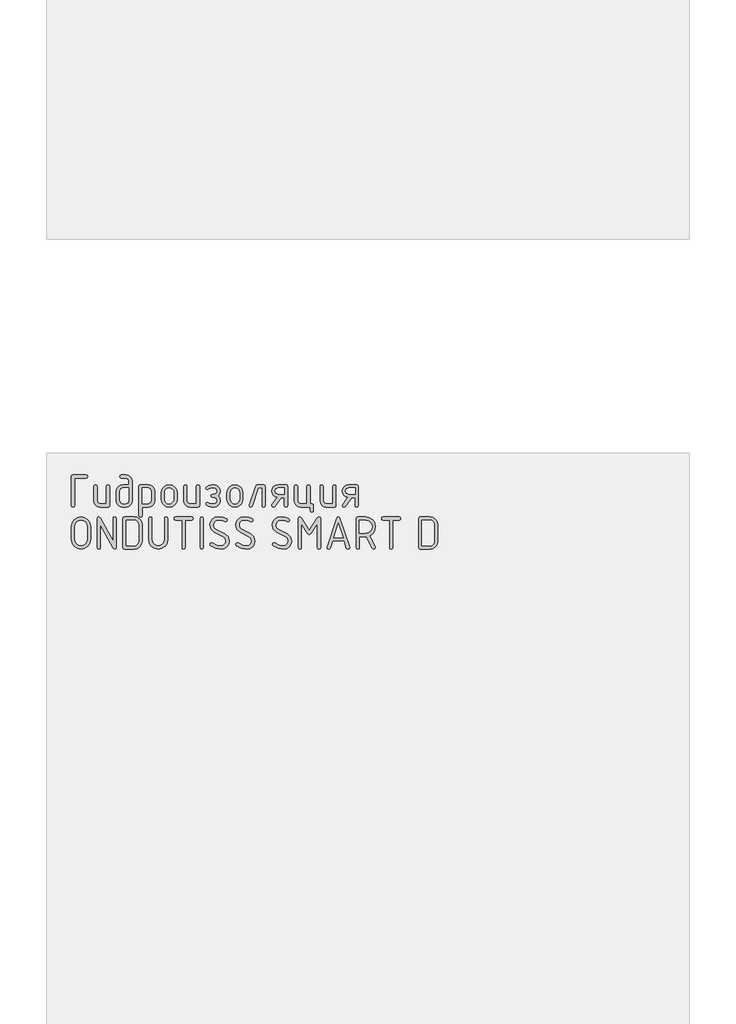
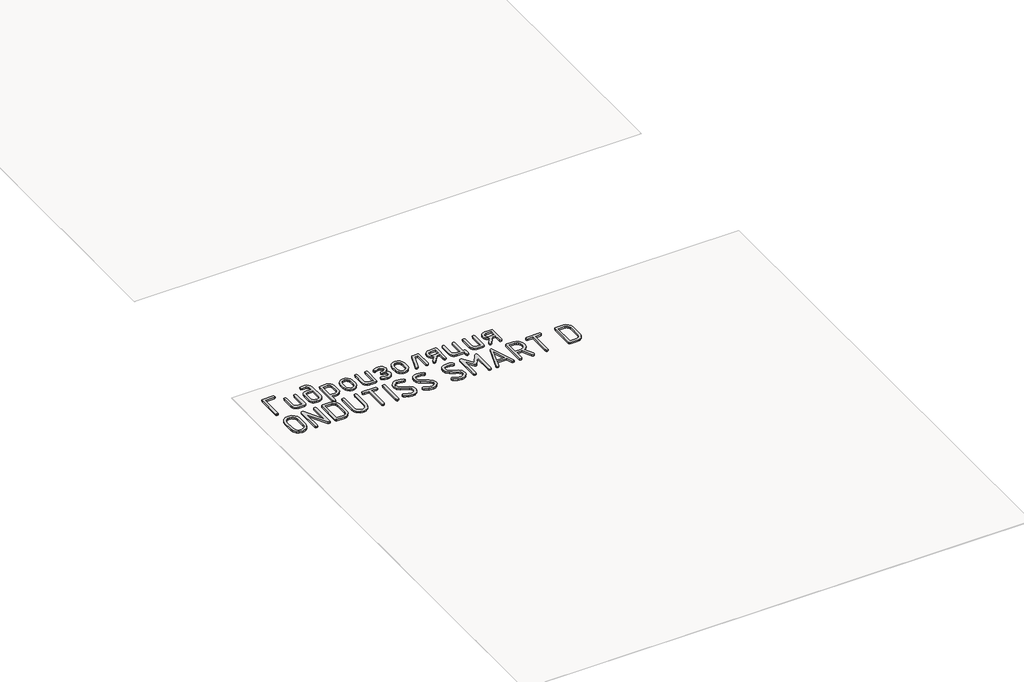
# One storey, part 17 of 42: 1 proxy.
"""IFC4 building model written with IfcOpenShell, lengths in millimetres."""

from ifc_helpers import new_model, si_unit, origin, origin_with_axes, place, context, project, spatial, polyline, outline, extrude, element, save

model = new_model("IFC4")

# Units and contexts
model_context = context("Model", 3, world=origin())
ifc_project = project(units=[si_unit("LENGTHUNIT", "METRE", prefix="MILLI")], contexts=[model_context])

# Site, building, storey
site = spatial("IfcSite", under=ifc_project)
building = spatial("IfcBuilding", under=site)
storey = spatial("IfcBuildingStorey", under=building, Name="Этаж 01", Elevation=0.0)

# Proxy
placement = place(None, origin())
element("IfcBuildingElementProxy", 1, Name="150 мм GOST Common", ObjectType="150 мм GOST Common", at=placement, inside=storey, context=model_context, shape_type="SweptSolid", body=[
    extrude(outline(polyline([(-4405.184039, -34691.2553022), (-4405.184039, -34819.2602353), (-4407.1017159, -34824.8934112), (-4412.8547466, -34826.7711365), (-4418.6077773, -34824.8834233), (-4420.5254542, -34819.2202837), (-4420.5254542, -34683.4647398), (-4418.6077773, -34677.8016002), (-4412.8547466, -34675.913887), (-4352.6876338, -34675.913887), (-4347.0544579, -34677.8315639), (-4345.1767326, -34683.5845946), (-4347.0544579, -34689.3376253), (-4352.6876338, -34691.2553022), (-4405.184039, -34691.2553022)])), origin_with_axes(), (0.0, 0.0, 1.0), 10.0),
    extrude(outline(polyline([(-4241.5422768, -34729.4090822), (-4241.5422768, -34819.3001869), (-4243.4000263, -34824.9033991), (-4248.9732748, -34826.7711365), (-4286.0483616, -34826.7711365), (-4297.5444351, -34824.6037621), (-4307.1028559, -34818.1016388), (-4313.5450517, -34808.443339), (-4315.6924503, -34796.8074349), (-4315.6924503, -34729.4090822), (-4313.7747734, -34723.80587), (-4308.0217427, -34721.9381326), (-4302.268712, -34723.80587), (-4300.3510351, -34729.4090822), (-4300.3510351, -34796.5277737), (-4296.0762137, -34807.0150692), (-4285.8486036, -34811.4297213), (-4256.883692, -34811.4297213), (-4256.883692, -34729.4090822), (-4254.9660151, -34723.80587), (-4249.2129844, -34721.9381326), (-4243.4599537, -34723.80587), (-4241.5422768, -34729.4090822)])), origin_with_axes(), (0.0, 0.0, 1.0), 10.0),
    extrude(outline(polyline([(-4136.709273, -34706.0773466), (-4136.709273, -34796.6076769), (-4138.8716535, -34808.2935205), (-4145.3587948, -34818.0217356), (-4154.9321975, -34824.5837863), (-4166.3533617, -34826.7711365), (-4181.2153577, -34826.7711365), (-4192.7114312, -34824.5887802), (-4202.269852, -34818.0417114), (-4208.7120478, -34808.3684298), (-4210.8594465, -34796.8074349), (-4210.8594465, -34751.9018342), (-4208.7170418, -34740.2659301), (-4202.2898278, -34730.6076303), (-4192.7963284, -34724.105507), (-4181.4550673, -34721.9381326), (-4152.0506882, -34721.9381326), (-4152.0506882, -34706.5967174), (-4156.2256306, -34695.6699543), (-4166.5531198, -34691.2553022), (-4188.2867913, -34691.2553022), (-4193.7102213, -34689.3376253), (-4195.5180313, -34683.5845946), (-4193.6802576, -34677.8315639), (-4188.1669365, -34675.913887), (-4166.1136521, -34675.913887), (-4154.7224516, -34678.1162191), (-4145.23894, -34684.7232153), (-4138.8416898, -34694.4664122), (-4136.709273, -34706.0773466)]), holes=[polyline([(-4152.0506882, -34796.6076769), (-4152.0506882, -34737.2795478), (-4181.0155997, -34737.2795478), (-4191.2831614, -34741.6142966), (-4195.5180313, -34752.1015922), (-4195.5180313, -34796.6076769), (-4191.2432098, -34807.0550209), (-4181.0155997, -34811.4297213), (-4166.5531198, -34811.4297213), (-4156.285558, -34807.0949725), (-4152.0506882, -34796.6076769)])]), origin_with_axes(), (0.0, 0.0, 1.0), 10.0),
    extrude(outline(polyline([(-4106.0264426, -34729.4889854), (-4104.1686931, -34723.8258458), (-4098.5954446, -34721.9381326), (-4061.5203579, -34721.9381326), (-4050.0242844, -34724.105507), (-4040.4658636, -34730.6076303), (-4034.0236678, -34740.2659301), (-4031.8762691, -34751.9018342), (-4031.8762691, -34796.8074349), (-4034.0086859, -34808.3684298), (-4040.4059362, -34818.0417114), (-4049.8894477, -34824.5887802), (-4061.2806483, -34826.7711365), (-4090.6850274, -34826.7711365), (-4090.6850274, -34865.1246745), (-4092.6027043, -34870.8777052), (-4098.355735, -34872.7953821), (-4104.1087657, -34870.9076689), (-4106.0264426, -34865.2445293), (-4106.0264426, -34729.4889854)]), holes=[polyline([(-4090.6850274, -34737.2795478), (-4090.6850274, -34811.4297213), (-4061.7201159, -34811.4297213), (-4051.4525542, -34807.0949725), (-4047.2176843, -34796.6076769), (-4047.2176843, -34752.1015922), (-4051.3926268, -34741.5543692), (-4061.7201159, -34737.2795478), (-4090.6850274, -34737.2795478)])]), origin_with_axes(), (0.0, 0.0, 1.0), 10.0),
    extrude(outline(polyline([(-4001.1934388, -34789.3364853), (-4001.1934388, -34759.3727838), (-3998.4817238, -34744.9802191), (-3990.3465788, -34732.8848716), (-3978.3660921, -34724.6748174), (-3964.118352, -34721.9381326), (-3949.7207934, -34724.6448537), (-3937.7702705, -34732.7650168), (-3929.7250166, -34744.8304006), (-3927.0432653, -34759.3727838), (-3927.0432653, -34789.3364853), (-3929.7549803, -34803.72905), (-3937.8901253, -34815.8243975), (-3949.8706119, -34824.0344517), (-3964.118352, -34826.7711365), (-3978.3660921, -34824.0344517), (-3990.3465788, -34815.8243975), (-3998.4817238, -34803.72905), (-4001.1934388, -34789.3364853)]), holes=[polyline([(-3942.3846805, -34788.8970177), (-3942.3846805, -34758.8933645), (-3943.9777506, -34750.2638185), (-3948.756961, -34742.9926269), (-3955.783449, -34738.0486162), (-3964.118352, -34736.4006126), (-3972.453255, -34738.0486162), (-3979.479743, -34742.9926269), (-3984.2589534, -34750.2638185), (-3985.8520236, -34758.8933645), (-3985.8520236, -34788.8970177), (-3984.2739353, -34797.606467), (-3979.5396704, -34804.8776585), (-3972.5281643, -34809.7917056), (-3964.118352, -34811.4297213), (-3955.783449, -34809.7817177), (-3948.756961, -34804.8377069), (-3943.9777506, -34797.5565275), (-3942.3846805, -34788.8970177)])]), origin_with_axes(), (0.0, 0.0, 1.0), 10.0),
    extrude(outline(polyline([(-3822.2102614, -34729.4090822), (-3822.2102614, -34819.3001869), (-3824.0680109, -34824.9033991), (-3829.6412594, -34826.7711365), (-3866.7163462, -34826.7711365), (-3878.2124197, -34824.6037621), (-3887.7708405, -34818.1016388), (-3894.2130363, -34808.443339), (-3896.3604349, -34796.8074349), (-3896.3604349, -34729.4090822), (-3894.442758, -34723.80587), (-3888.6897273, -34721.9381326), (-3882.9366966, -34723.80587), (-3881.0190197, -34729.4090822), (-3881.0190197, -34796.5277737), (-3876.7441983, -34807.0150692), (-3866.5165882, -34811.4297213), (-3837.5516766, -34811.4297213), (-3837.5516766, -34729.4090822), (-3835.6339997, -34723.80587), (-3829.880969, -34721.9381326), (-3824.1279383, -34723.80587), (-3822.2102614, -34729.4090822)])), origin_with_axes(), (0.0, 0.0, 1.0), 10.0),
    extrude(outline(polyline([(-3740.3893804, -34796.0483545), (-3744.3845406, -34784.7020995), (-3753.2537963, -34780.7468909), (-3762.922084, -34780.7468909), (-3768.235647, -34778.5495528), (-3770.3930336, -34773.1161349), (-3768.1757196, -34767.6627412), (-3760.7646975, -34765.4054757), (-3758.4874561, -34765.4054757), (-3756.09036, -34765.4054757), (-3744.4244922, -34761.3503881), (-3740.3893804, -34751.3425118), (-3744.7241292, -34741.3346354), (-3755.4111828, -34737.2795478), (-3762.922084, -34737.2795478), (-3778.3034508, -34741.0949258), (-3787.212658, -34744.9103038), (-3791.2078182, -34742.1736191), (-3792.9257371, -34736.9199834), (-3789.8494638, -34731.1769406), (-3780.6206437, -34726.013196), (-3762.922084, -34721.9381326), (-3755.4111828, -34721.9381326), (-3743.7253392, -34724.0555675), (-3733.9172209, -34730.4078723), (-3727.2652791, -34739.8264625), (-3725.0479652, -34751.1427537), (-3727.6947588, -34764.4366493), (-3735.6351397, -34773.0761833), (-3727.6947588, -34782.2650518), (-3725.0479652, -34796.0883061), (-3727.2652791, -34807.9888895), (-3733.9172209, -34817.881905), (-3743.7253392, -34824.5488286), (-3755.4111828, -34826.7711365), (-3762.922084, -34826.7711365), (-3780.7404985, -34822.8159279), (-3789.8794275, -34817.7420744), (-3792.9257371, -34811.7892857), (-3791.2078182, -34806.5156742), (-3787.0928032, -34803.7989653), (-3777.9638621, -34807.6143433), (-3762.922084, -34811.4297213), (-3755.4111828, -34811.4297213), (-3744.7640808, -34806.935166), (-3740.3893804, -34796.0483545)])), origin_with_axes(), (0.0, 0.0, 1.0), 10.0),
    extrude(outline(polyline([(-3694.3651348, -34789.3364853), (-3694.3651348, -34759.3727838), (-3691.6534198, -34744.9802191), (-3683.5182748, -34732.8848716), (-3671.5377882, -34724.6748174), (-3657.2900481, -34721.9381326), (-3642.8924895, -34724.6448537), (-3630.9419665, -34732.7650168), (-3622.8967126, -34744.8304006), (-3620.2149613, -34759.3727838), (-3620.2149613, -34789.3364853), (-3622.9266763, -34803.72905), (-3631.0618213, -34815.8243975), (-3643.042308, -34824.0344517), (-3657.2900481, -34826.7711365), (-3671.5377882, -34824.0344517), (-3683.5182748, -34815.8243975), (-3691.6534198, -34803.72905), (-3694.3651348, -34789.3364853)]), holes=[polyline([(-3635.5563765, -34788.8970177), (-3635.5563765, -34758.8933645), (-3637.1494467, -34750.2638185), (-3641.9286571, -34742.9926269), (-3648.9551451, -34738.0486162), (-3657.2900481, -34736.4006126), (-3665.6249511, -34738.0486162), (-3672.6514391, -34742.9926269), (-3677.4306495, -34750.2638185), (-3679.0237196, -34758.8933645), (-3679.0237196, -34788.8970177), (-3677.4456313, -34797.606467), (-3672.7113665, -34804.8776585), (-3665.6998603, -34809.7917056), (-3657.2900481, -34811.4297213), (-3648.9551451, -34809.7817177), (-3641.9286571, -34804.8377069), (-3637.1494467, -34797.5565275), (-3635.5563765, -34788.8970177)])]), origin_with_axes(), (0.0, 0.0, 1.0), 10.0),
    extrude(outline(polyline([(-3553.2161247, -34721.9381326), (-3523.0526651, -34721.9381326), (-3517.2996344, -34723.80587), (-3515.3819575, -34729.4090822), (-3515.3819575, -34819.3001869), (-3517.2996344, -34824.9033991), (-3523.0526651, -34826.7711365), (-3528.8056958, -34824.9033991), (-3530.7233727, -34819.3001869), (-3530.7233727, -34737.2795478), (-3547.86261, -34737.2795478), (-3576.1483443, -34821.697283), (-3583.2197778, -34826.7711365), (-3588.8529537, -34824.8734354), (-3590.730679, -34819.1803321), (-3590.3711146, -34816.9030908), (-3560.7270259, -34728.0507277), (-3557.8105589, -34723.4662814), (-3553.2161247, -34721.9381326)])), origin_with_axes(), (0.0, 0.0, 1.0), 10.0),
    extrude(outline(polyline([(-3459.1700534, -34781.6258261), (-3469.752234, -34778.5046072), (-3478.3268466, -34771.8576594), (-3484.004968, -34762.663797), (-3485.8976752, -34751.9018342), (-3483.7203129, -34740.2659301), (-3477.1882259, -34730.6076303), (-3467.5099503, -34724.105507), (-3455.894022, -34721.9381326), (-3418.2196612, -34721.9381326), (-3412.4666305, -34723.80587), (-3410.5489536, -34729.4090822), (-3410.5489536, -34819.3001869), (-3412.4666305, -34824.9033991), (-3418.2196612, -34826.7711365), (-3423.9726919, -34824.8934112), (-3425.8903688, -34819.2602353), (-3425.8903688, -34781.7856325), (-3441.1119292, -34781.7856325), (-3472.3540821, -34823.6948631), (-3478.386774, -34826.7711365), (-3484.0199499, -34824.9033991), (-3485.8976752, -34819.3001869), (-3484.4194659, -34814.7457043), (-3459.1700534, -34781.6258261)]), holes=[polyline([(-3470.8758728, -34752.3013502), (-3466.441245, -34762.8485732), (-3455.894022, -34767.283201), (-3425.8903688, -34767.283201), (-3425.8903688, -34737.2795478), (-3455.894022, -34737.2795478), (-3466.5011724, -34741.6542483), (-3470.8758728, -34752.3013502)])]), origin_with_axes(), (0.0, 0.0, 1.0), 10.0),
    extrude(outline(polyline([(-3298.0452422, -34811.4297213), (-3292.2922115, -34813.3473982), (-3290.3745346, -34819.1004289), (-3290.3745346, -34842.1125517), (-3292.2922115, -34847.8655824), (-3298.0452422, -34849.7832593), (-3303.7982729, -34847.8655824), (-3305.7159498, -34842.1125517), (-3305.7159498, -34826.7711365), (-3350.2220345, -34826.7711365), (-3361.718108, -34824.5887802), (-3371.2765288, -34818.0417114), (-3377.7187246, -34808.3684298), (-3379.8661233, -34796.8074349), (-3379.8661233, -34729.4090822), (-3377.9484464, -34723.80587), (-3372.1954157, -34721.9381326), (-3366.442385, -34723.80587), (-3364.5247081, -34729.4090822), (-3364.5247081, -34796.5277737), (-3360.2498866, -34807.0150692), (-3350.0222765, -34811.4297213), (-3321.057365, -34811.4297213), (-3321.057365, -34729.4090822), (-3319.1396881, -34723.80587), (-3313.3866574, -34721.9381326), (-3307.6336267, -34723.80587), (-3305.7159498, -34729.4090822), (-3305.7159498, -34811.4297213), (-3298.0452422, -34811.4297213)])), origin_with_axes(), (0.0, 0.0, 1.0), 10.0),
    extrude(outline(polyline([(-3185.5415308, -34729.4090822), (-3185.5415308, -34819.3001869), (-3187.3992802, -34824.9033991), (-3192.9725287, -34826.7711365), (-3230.0476155, -34826.7711365), (-3241.543689, -34824.6037621), (-3251.1021098, -34818.1016388), (-3257.5443056, -34808.443339), (-3259.6917042, -34796.8074349), (-3259.6917042, -34729.4090822), (-3257.7740273, -34723.80587), (-3252.0209966, -34721.9381326), (-3246.2679659, -34723.80587), (-3244.350289, -34729.4090822), (-3244.350289, -34796.5277737), (-3240.0754676, -34807.0150692), (-3229.8478575, -34811.4297213), (-3200.882946, -34811.4297213), (-3200.882946, -34729.4090822), (-3198.9652691, -34723.80587), (-3193.2122384, -34721.9381326), (-3187.4592077, -34723.80587), (-3185.5415308, -34729.4090822)])), origin_with_axes(), (0.0, 0.0, 1.0), 10.0),
    extrude(outline(polyline([(-3129.3296266, -34781.6258261), (-3139.9118072, -34778.5046072), (-3148.4864198, -34771.8576594), (-3154.1645413, -34762.663797), (-3156.0572484, -34751.9018342), (-3153.8798861, -34740.2659301), (-3147.3477992, -34730.6076303), (-3137.6695236, -34724.105507), (-3126.0535953, -34721.9381326), (-3088.3792345, -34721.9381326), (-3082.6262038, -34723.80587), (-3080.7085269, -34729.4090822), (-3080.7085269, -34819.3001869), (-3082.6262038, -34824.9033991), (-3088.3792345, -34826.7711365), (-3094.1322652, -34824.8934112), (-3096.0499421, -34819.2602353), (-3096.0499421, -34781.7856325), (-3111.2715025, -34781.7856325), (-3142.5136553, -34823.6948631), (-3148.5463472, -34826.7711365), (-3154.1795231, -34824.9033991), (-3156.0572484, -34819.3001869), (-3154.5790391, -34814.7457043), (-3129.3296266, -34781.6258261)]), holes=[polyline([(-3141.035446, -34752.3013502), (-3136.6008182, -34762.8485732), (-3126.0535953, -34767.283201), (-3096.0499421, -34767.283201), (-3096.0499421, -34737.2795478), (-3126.0535953, -34737.2795478), (-3136.6607456, -34741.6542483), (-3141.035446, -34752.3013502)])]), origin_with_axes(), (0.0, 0.0, 1.0), 10.0),
    extrude(outline(polyline([(-4331.0338655, -34977.5302169), (-4334.3098969, -34994.8991759), (-4344.137991, -35009.5314502), (-4358.6004709, -35019.4793991), (-4375.7796598, -35022.7953821), (-4392.9588487, -35019.4793991), (-4407.4213287, -35009.5314502), (-4417.2494228, -34994.8991759), (-4420.5254542, -34977.5302169), (-4420.5254542, -34917.2032978), (-4417.2494228, -34899.8343388), (-4407.4213287, -34885.2020645), (-4392.9588487, -34875.2541156), (-4375.7796598, -34871.9381326), (-4358.5255617, -34875.2391337), (-4344.0780636, -34885.1421371), (-4334.294915, -34899.7594295), (-4331.0338655, -34917.2032978), (-4331.0338655, -34977.5302169)]), holes=[polyline([(-4346.3752807, -34977.4103621), (-4346.3752807, -34917.3231526), (-4348.5076975, -34905.6772606), (-4354.9049477, -34895.9889971), (-4364.3884593, -34889.4569101), (-4375.7796598, -34887.2795478), (-4387.1708604, -34889.4569101), (-4396.6543719, -34895.9889971), (-4403.0516222, -34905.6772606), (-4405.184039, -34917.3231526), (-4405.184039, -34977.4103621), (-4403.0516222, -34989.0562541), (-4396.6543719, -34998.7445176), (-4387.1708604, -35005.2766046), (-4375.7796598, -35007.4539669), (-4364.3884593, -35005.2766046), (-4354.9049477, -34998.7445176), (-4348.5076975, -34989.0562541), (-4346.3752807, -34977.4103621)])]), origin_with_axes(), (0.0, 0.0, 1.0), 10.0),
    extrude(outline(polyline([(-4226.2008617, -34986.1198114), (-4226.2008617, -34879.4889854), (-4224.2831848, -34873.8258458), (-4218.5301541, -34871.9381326), (-4212.7771234, -34873.8258458), (-4210.8594465, -34879.4889854), (-4210.8594465, -35015.2445293), (-4212.8969782, -35020.9076689), (-4219.0095733, -35022.7953821), (-4226.2008617, -35019.0399315), (-4285.0096199, -34908.4938485), (-4285.0096199, -35015.2445293), (-4286.9272968, -35020.9076689), (-4292.6803275, -35022.7953821), (-4298.4333582, -35020.9076689), (-4300.3510351, -35015.2445293), (-4300.3510351, -34879.4889854), (-4298.353455, -34873.8258458), (-4292.3607147, -34871.9381326), (-4285.0096199, -34876.4127121), (-4226.2008617, -34986.1198114)])), origin_with_axes(), (0.0, 0.0, 1.0), 10.0),
    extrude(outline(polyline([(-4180.1766161, -34879.4889854), (-4178.3088787, -34873.8258458), (-4172.7056665, -34871.9381326), (-4127.9598721, -34871.9381326), (-4113.4874043, -34874.6648295), (-4101.47196, -34882.84492), (-4093.3817605, -34895.0001949), (-4090.6850274, -34909.652445), (-4090.6850274, -34985.0810697), (-4093.4117242, -34999.5835013), (-4101.5918148, -35011.7687399), (-4113.6372228, -35020.0387215), (-4127.9598721, -35022.7953821), (-4172.7056665, -35022.7953821), (-4178.3088787, -35020.9076689), (-4180.1766161, -35015.2445293), (-4180.1766161, -34879.4889854)]), holes=[polyline([(-4164.8352009, -34887.2795478), (-4164.8352009, -35007.4539669), (-4128.079727, -35007.4539669), (-4119.6049934, -35005.8059633), (-4112.4786263, -35000.8619525), (-4107.6394885, -34993.580773), (-4106.0264426, -34984.9212633), (-4106.0264426, -34909.8122514), (-4107.6394885, -34901.1527416), (-4112.4786263, -34893.8715622), (-4119.6049934, -34888.9275514), (-4128.079727, -34887.2795478), (-4164.8352009, -34887.2795478)])]), origin_with_axes(), (0.0, 0.0, 1.0), 10.0),
    extrude(outline(polyline([(-3970.5106084, -34879.4889854), (-3970.5106084, -34977.5302169), (-3973.7866397, -34994.8991759), (-3983.6147338, -35009.5314502), (-3998.0772138, -35019.4793991), (-4015.2564027, -35022.7953821), (-4032.4355916, -35019.4793991), (-4046.8980715, -35009.5314502), (-4056.7261656, -34994.8991759), (-4060.002197, -34977.5302169), (-4060.002197, -34879.4889854), (-4058.0845201, -34873.8258458), (-4052.3314894, -34871.9381326), (-4046.5784587, -34873.8158579), (-4044.6607818, -34879.4490338), (-4044.6607818, -34977.3304589), (-4042.5283651, -34989.0113086), (-4036.1311148, -34998.7245418), (-4026.6476032, -35005.2716106), (-4015.2564027, -35007.4539669), (-4003.8652021, -35005.2716106), (-3994.3816906, -34998.7245418), (-3987.9844403, -34989.0113086), (-3985.8520236, -34977.3304589), (-3985.8520236, -34879.4490338), (-3983.9343467, -34873.8158579), (-3978.181316, -34871.9381326), (-3972.4282853, -34873.8258458), (-3970.5106084, -34879.4889854)])), origin_with_axes(), (0.0, 0.0, 1.0), 10.0),
    extrude(outline(polyline([(-3941.5456969, -34879.6088402), (-3939.6679716, -34873.8558095), (-3934.0347957, -34871.9381326), (-3858.6860741, -34871.9381326), (-3853.082862, -34873.8558095), (-3851.2151246, -34879.6088402), (-3853.082862, -34885.3618709), (-3858.6860741, -34887.2795478), (-3888.6897273, -34887.2795478), (-3888.6897273, -35015.2844809), (-3890.6074042, -35020.9176568), (-3896.3604349, -35022.7953821), (-3902.1134656, -35020.9176568), (-3904.0311425, -35015.2844809), (-3904.0311425, -34887.2795478), (-3934.0347957, -34887.2795478), (-3939.6679716, -34885.3618709), (-3941.5456969, -34879.6088402)])), origin_with_axes(), (0.0, 0.0, 1.0), 10.0),
    extrude(outline(polyline([(-3811.9826513, -35022.7953821), (-3817.735682, -35020.9076689), (-3819.6533589, -35015.2445293), (-3819.6533589, -34879.4889854), (-3817.735682, -34873.8258458), (-3811.9826513, -34871.9381326), (-3806.2296206, -34873.8258458), (-3804.3119437, -34879.4889854), (-3804.3119437, -35015.2445293), (-3806.2296206, -35020.9076689), (-3811.9826513, -35022.7953821)])), origin_with_axes(), (0.0, 0.0, 1.0), 10.0),
    extrude(outline(polyline([(-3684.1375247, -34985.1609729), (-3686.8792034, -34999.5535376), (-3695.1042394, -35011.7287883), (-3707.1646293, -35020.0287336), (-3721.4123694, -35022.7953821), (-3747.4308503, -35018.6104518), (-3770.353082, -35006.0556608), (-3773.6291133, -34999.9430657), (-3771.4317752, -34994.6494784), (-3766.1981153, -34992.4321645), (-3761.9632455, -34993.790519), (-3741.5080253, -35004.2578387), (-3721.7319822, -35007.4539669), (-3713.1823394, -35005.8009693), (-3705.991051, -35000.8419767), (-3701.1069677, -34993.5458154), (-3699.4789399, -34984.8813117), (-3702.5652011, -34972.9158069), (-3711.8239849, -34964.665801), (-3753.5334575, -34943.0120327), (-3768.6051994, -34929.3985243), (-3773.6291133, -34909.5725418), (-3770.9024165, -34895.1799771), (-3762.722326, -34883.0047264), (-3750.7268574, -34874.7047811), (-3736.5540266, -34871.9381326), (-3713.3721095, -34874.0256038), (-3696.4026665, -34880.2880175), (-3691.9680387, -34887.2795478), (-3694.1853526, -34892.5731351), (-3699.4789399, -34894.790449), (-3702.5951648, -34893.991417), (-3719.4747167, -34888.9575151), (-3736.2344138, -34887.2795478), (-3744.7091474, -34888.9325454), (-3751.8355144, -34893.891538), (-3756.6746522, -34901.1876993), (-3758.2876981, -34909.852203), (-3755.2513764, -34921.7877441), (-3746.1424111, -34929.9478588), (-3704.4728901, -34951.6016272), (-3689.221366, -34965.3050267), (-3684.1375247, -34985.1609729)])), origin_with_axes(), (0.0, 0.0, 1.0), 10.0),
    extrude(outline(polyline([(-3563.9631056, -34985.1609729), (-3566.7047843, -34999.5535376), (-3574.9298204, -35011.7287883), (-3586.9902103, -35020.0287336), (-3601.2379504, -35022.7953821), (-3627.2564312, -35018.6104518), (-3650.1786629, -35006.0556608), (-3653.4546943, -34999.9430657), (-3651.2573562, -34994.6494784), (-3646.0236963, -34992.4321645), (-3641.7888265, -34993.790519), (-3621.3336062, -35004.2578387), (-3601.5575632, -35007.4539669), (-3593.0079203, -35005.8009693), (-3585.816632, -35000.8419767), (-3580.9325486, -34993.5458154), (-3579.3045208, -34984.8813117), (-3582.3907821, -34972.9158069), (-3591.6495659, -34964.665801), (-3633.3590384, -34943.0120327), (-3648.4307803, -34929.3985243), (-3653.4546943, -34909.5725418), (-3650.7279974, -34895.1799771), (-3642.5479069, -34883.0047264), (-3630.5524384, -34874.7047811), (-3616.3796075, -34871.9381326), (-3593.1976904, -34874.0256038), (-3576.2282475, -34880.2880175), (-3571.7936196, -34887.2795478), (-3574.0109335, -34892.5731351), (-3579.3045208, -34894.790449), (-3582.4207458, -34893.991417), (-3599.3002977, -34888.9575151), (-3616.0599947, -34887.2795478), (-3624.5347283, -34888.9325454), (-3631.6610953, -34893.891538), (-3636.5002331, -34901.1876993), (-3638.1132791, -34909.852203), (-3635.0769573, -34921.7877441), (-3625.967992, -34929.9478588), (-3584.2984711, -34951.6016272), (-3569.046947, -34965.3050267), (-3563.9631056, -34985.1609729)])), origin_with_axes(), (0.0, 0.0, 1.0), 10.0),
    extrude(outline(polyline([(-3392.6506359, -34985.1609729), (-3395.3923146, -34999.5535376), (-3403.6173507, -35011.7287883), (-3415.6777406, -35020.0287336), (-3429.9254807, -35022.7953821), (-3455.9439615, -35018.6104518), (-3478.8661932, -35006.0556608), (-3482.1422246, -34999.9430657), (-3479.9448865, -34994.6494784), (-3474.7112266, -34992.4321645), (-3470.4763568, -34993.790519), (-3450.0211365, -35004.2578387), (-3430.2450935, -35007.4539669), (-3421.6954506, -35005.8009693), (-3414.5041623, -35000.8419767), (-3409.6200789, -34993.5458154), (-3407.9920511, -34984.8813117), (-3411.0783124, -34972.9158069), (-3420.3370962, -34964.665801), (-3462.0465687, -34943.0120327), (-3477.1183106, -34929.3985243), (-3482.1422246, -34909.5725418), (-3479.4155277, -34895.1799771), (-3471.2354372, -34883.0047264), (-3459.2399687, -34874.7047811), (-3445.0671378, -34871.9381326), (-3421.8852207, -34874.0256038), (-3404.9157778, -34880.2880175), (-3400.4811499, -34887.2795478), (-3402.6984638, -34892.5731351), (-3407.9920511, -34894.790449), (-3411.1082761, -34893.991417), (-3427.987828, -34888.9575151), (-3444.747525, -34887.2795478), (-3453.2222586, -34888.9325454), (-3460.3486256, -34893.891538), (-3465.1877634, -34901.1876993), (-3466.8008094, -34909.852203), (-3463.7644876, -34921.7877441), (-3454.6555223, -34929.9478588), (-3412.9860014, -34951.6016272), (-3397.7344773, -34965.3050267), (-3392.6506359, -34985.1609729)])), origin_with_axes(), (0.0, 0.0, 1.0), 10.0),
    extrude(outline(polyline([(-3265.4447349, -34871.9381326), (-3259.212285, -34873.8258458), (-3257.1348017, -34879.4889854), (-3257.1348017, -35015.2445293), (-3259.0524786, -35020.9076689), (-3264.8055093, -35022.7953821), (-3270.55854, -35020.9076689), (-3272.4762169, -35015.2445293), (-3272.4762169, -34904.2989303), (-3302.679628, -34950.1234179), (-3309.5513036, -34954.6379489), (-3316.5028824, -34950.1234179), (-3346.6263903, -34904.2989303), (-3346.6263903, -35015.2445293), (-3348.5440672, -35020.9076689), (-3354.2970979, -35022.7953821), (-3360.0501286, -35020.9076689), (-3361.9678055, -35015.2445293), (-3361.9678055, -34879.4889854), (-3359.9302738, -34873.8258458), (-3353.8176787, -34871.9381326), (-3346.6263903, -34875.6935832), (-3309.6711584, -34933.6633578), (-3272.4762169, -34875.2541156), (-3265.4447349, -34871.9381326)])), origin_with_axes(), (0.0, 0.0, 1.0), 10.0),
    extrude(outline(polyline([(-3121.7787738, -35015.2445293), (-3123.6564991, -35020.9076689), (-3129.289675, -35022.7953821), (-3133.814194, -35021.4869671), (-3136.4410118, -35017.5617222), (-3147.2279444, -34984.4418441), (-3201.3224136, -34984.4418441), (-3212.1492977, -35017.5617222), (-3214.7761156, -35021.4869671), (-3219.3006345, -35022.7953821), (-3224.9338104, -35020.9076689), (-3226.8115357, -35015.2445293), (-3226.4519713, -35012.8474332), (-3181.7860802, -34878.0107761), (-3178.889589, -34873.4562935), (-3174.275179, -34871.9381326), (-3169.7206963, -34873.3963661), (-3166.9240842, -34877.7710665), (-3122.1383383, -35012.8474332), (-3121.7787738, -35015.2445293)]), holes=[polyline([(-3174.275179, -34902.9405758), (-3196.3284633, -34969.1004289), (-3152.2618462, -34969.1004289), (-3174.275179, -34902.9405758)])]), origin_with_axes(), (0.0, 0.0, 1.0), 10.0),
    extrude(outline(polyline([(-3027.6128477, -34959.2723348), (-3001.4445484, -35011.8086915), (-3001.4445484, -35015.2445293), (-3003.8815961, -35020.5181407), (-3009.4748204, -35022.7953821), (-3016.7859636, -35018.6803671), (-3043.8731498, -34963.866769), (-3046.5099555, -34963.9866238), (-3075.5947218, -34963.9866238), (-3075.5947218, -35015.4442873), (-3077.5123987, -35020.9576084), (-3083.2654294, -35022.7953821), (-3089.0184601, -35020.9076689), (-3090.936137, -35015.2445293), (-3090.936137, -34879.4889854), (-3089.0683996, -34873.8258458), (-3083.4651874, -34871.9381326), (-3046.1903427, -34871.9381326), (-3028.9362446, -34875.2391337), (-3014.4887465, -34885.1421371), (-3004.7055979, -34899.7594295), (-3001.4445484, -34917.2032978), (-3003.0800671, -34931.533438), (-3007.9866232, -34943.3216576), (-3016.1642168, -34952.5679565), (-3027.6128477, -34959.2723348)]), holes=[polyline([(-3075.5947218, -34887.2795478), (-3075.5947218, -34948.6452086), (-3046.1903427, -34948.6452086), (-3034.7991422, -34946.4229007), (-3025.3156306, -34939.7559772), (-3018.9183803, -34929.8629617), (-3016.7859636, -34917.9623782), (-3018.9183803, -34906.0617947), (-3025.3156306, -34896.1687793), (-3034.7991422, -34889.5018557), (-3046.1903427, -34887.2795478), (-3075.5947218, -34887.2795478)])]), origin_with_axes(), (0.0, 0.0, 1.0), 10.0),
    extrude(outline(polyline([(-2972.4796369, -34879.6088402), (-2970.6019116, -34873.8558095), (-2964.9687357, -34871.9381326), (-2889.6200142, -34871.9381326), (-2884.016802, -34873.8558095), (-2882.1490646, -34879.6088402), (-2884.016802, -34885.3618709), (-2889.6200142, -34887.2795478), (-2919.6236673, -34887.2795478), (-2919.6236673, -35015.2844809), (-2921.5413442, -35020.9176568), (-2927.2943749, -35022.7953821), (-2933.0474056, -35020.9176568), (-2934.9650825, -35015.2844809), (-2934.9650825, -34887.2795478), (-2964.9687357, -34887.2795478), (-2970.6019116, -34885.3618709), (-2972.4796369, -34879.6088402)])), origin_with_axes(), (0.0, 0.0, 1.0), 10.0),
    extrude(outline(polyline([(-2799.4492483, -34879.4889854), (-2797.5815109, -34873.8258458), (-2791.9782987, -34871.9381326), (-2747.2325044, -34871.9381326), (-2732.7600365, -34874.6648295), (-2720.7445922, -34882.84492), (-2712.6543928, -34895.0001949), (-2709.9576596, -34909.652445), (-2709.9576596, -34985.0810697), (-2712.6843565, -34999.5835013), (-2720.864447, -35011.7687399), (-2732.909855, -35020.0387215), (-2747.2325044, -35022.7953821), (-2791.9782987, -35022.7953821), (-2797.5815109, -35020.9076689), (-2799.4492483, -35015.2445293), (-2799.4492483, -34879.4889854)]), holes=[polyline([(-2784.1078331, -34887.2795478), (-2784.1078331, -35007.4539669), (-2747.3523592, -35007.4539669), (-2738.8776256, -35005.8059633), (-2731.7512586, -35000.8619525), (-2726.9121208, -34993.580773), (-2725.2990748, -34984.9212633), (-2725.2990748, -34909.8122514), (-2726.9121208, -34901.1527416), (-2731.7512586, -34893.8715622), (-2738.8776256, -34888.9275514), (-2747.3523592, -34887.2795478), (-2784.1078331, -34887.2795478)])]), origin_with_axes(), (0.0, 0.0, 1.0), 10.0),
])

save(model, "model.ifc")
